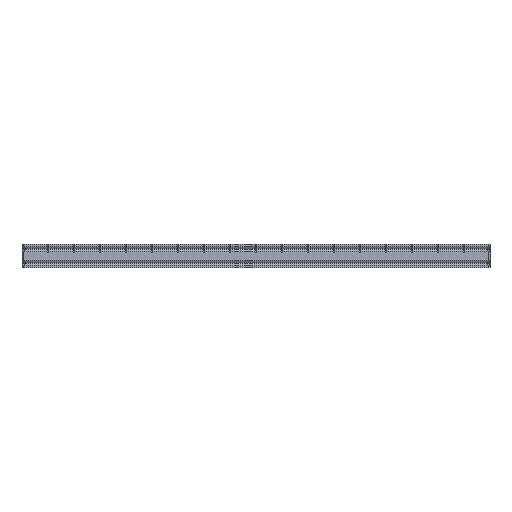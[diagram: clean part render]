
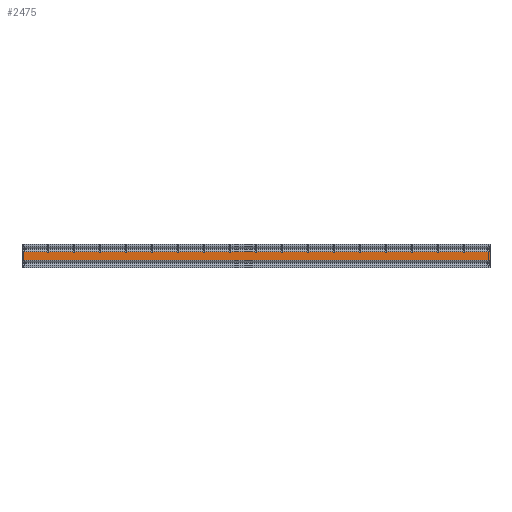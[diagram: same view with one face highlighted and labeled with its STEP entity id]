
A CAD part, front view. The second image highlights one B-rep face of the part: STEP entity #2475.
In plain terms, the highlighted planar face has unit normal (0, -1, 0) as drawn and (0, 0, 1) by its records, which use the part's own axes.
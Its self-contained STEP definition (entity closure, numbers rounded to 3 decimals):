
#309=PLANE('',#2697);
#593=LINE('',#4063,#885);
#594=LINE('',#4067,#886);
#595=LINE('',#4069,#887);
#596=LINE('',#4071,#888);
#885=VECTOR('',#3333,1000.);
#886=VECTOR('',#3338,1000.);
#887=VECTOR('',#3339,1000.);
#888=VECTOR('',#3340,1000.);
#1482=ORIENTED_EDGE('',*,*,#1854,.T.);
#1483=ORIENTED_EDGE('',*,*,#1855,.F.);
#1484=ORIENTED_EDGE('',*,*,#1856,.F.);
#1485=ORIENTED_EDGE('',*,*,#1852,.T.);
#1852=EDGE_CURVE('',#2077,#2076,#593,.T.);
#1854=EDGE_CURVE('',#2076,#2078,#594,.T.);
#1855=EDGE_CURVE('',#2079,#2078,#595,.T.);
#1856=EDGE_CURVE('',#2077,#2079,#596,.T.);
#2076=VERTEX_POINT('',#4062);
#2077=VERTEX_POINT('',#4064);
#2078=VERTEX_POINT('',#4068);
#2079=VERTEX_POINT('',#4070);
#2227=EDGE_LOOP('',(#1482,#1483,#1484,#1485));
#2343=FACE_BOUND('',#2227,.T.);
#2475=ADVANCED_FACE('',(#2343),#309,.F.);
#2697=AXIS2_PLACEMENT_3D('',#4066,#3336,#3337);
#3333=DIRECTION('',(-1.,0.,0.));
#3336=DIRECTION('',(0.,0.,-1.));
#3337=DIRECTION('',(-1.,0.,0.));
#3338=DIRECTION('',(0.,-1.,0.));
#3339=DIRECTION('',(-1.,0.,0.));
#3340=DIRECTION('',(0.,-1.,0.));
#4062=CARTESIAN_POINT('',(-300.,-9.527,500.));
#4063=CARTESIAN_POINT('',(300.,-9.527,500.));
#4064=CARTESIAN_POINT('',(300.,-9.527,500.));
#4066=CARTESIAN_POINT('',(300.,-9.527,500.));
#4067=CARTESIAN_POINT('',(-300.,-9.527,500.));
#4068=CARTESIAN_POINT('',(-300.,-20.473,500.));
#4069=CARTESIAN_POINT('',(300.,-20.473,500.));
#4070=CARTESIAN_POINT('',(300.,-20.473,500.));
#4071=CARTESIAN_POINT('',(300.,-9.527,500.));
